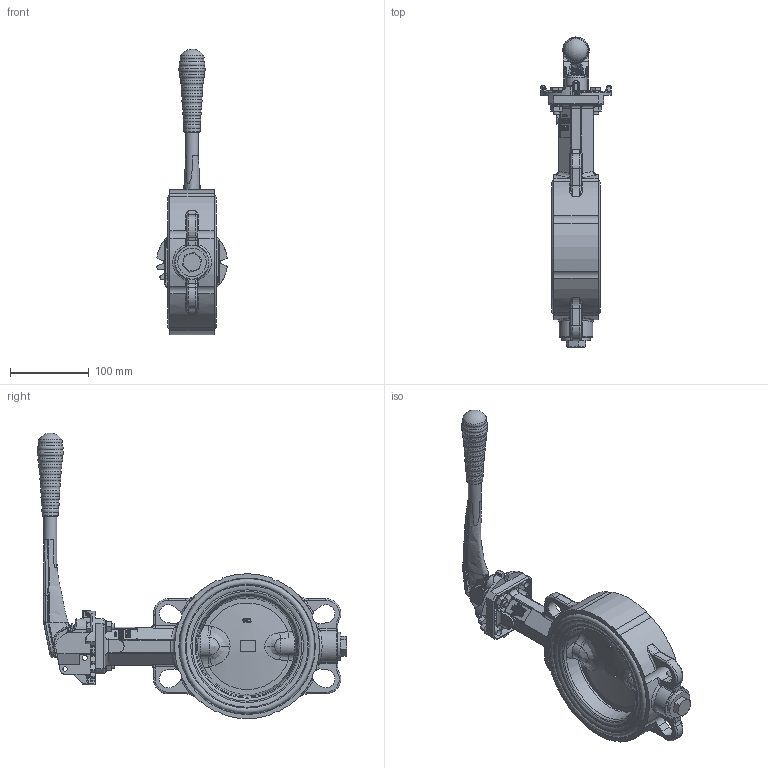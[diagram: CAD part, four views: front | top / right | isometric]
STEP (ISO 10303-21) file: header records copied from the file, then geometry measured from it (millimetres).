
FILE_DESCRIPTION((''),'2;1');
FILE_NAME('K:\Inventor\1 Artikel\10) Absperrklappen\10a) manuell\ABO Valve\890-GGG, 994B\890-GGG, DN125\890-GGG, DN125, 3D\890-GGG, DN125, PN6-16, HH, 3D.stp','2019-08-13T11:15:33',('claudia'),(''),'Autodesk Inventor 2013','Autodesk Inventor 2013','');
FILE_SCHEMA(('AUTOMOTIVE_DESIGN { 1 0 10303 214 1 1 1 1 }'));
Length unit declared in the file: millimetre
Products named in the file (1): Bauteil5
Bounding box: 89.17 x 392.75 x 362.18 mm (x, y, z)
Surface area: 212827.6 mm2
Topology: 1 solids, 2 shells, 1860 faces, 4977 edges, 3154 vertices
Faces by surface type: plane 703, bspline 624, cylinder 306, torus 146, cone 72, sphere 9
Full cylindrical faces by diameter (mm): 5.5 x2, 6.3 x2, 6.5 x2, 7 x2, 8 x4, 9 x4, 9.5 x1, 13 x2, 16 x2, 16.5 x2, 20.5 x1, 22 x1, 22.5 x1, 32 x1, 34 x1, 36 x1, 171 x2, 173 x2
Entity records: 81732 total; most frequent: CARTESIAN_POINT 38548, ORIENTED_EDGE 9662, DIRECTION 6768, EDGE_CURVE 4833, VERTEX_POINT 3124, AXIS2_PLACEMENT_3D 2322, VECTOR 2124, LINE 2124
